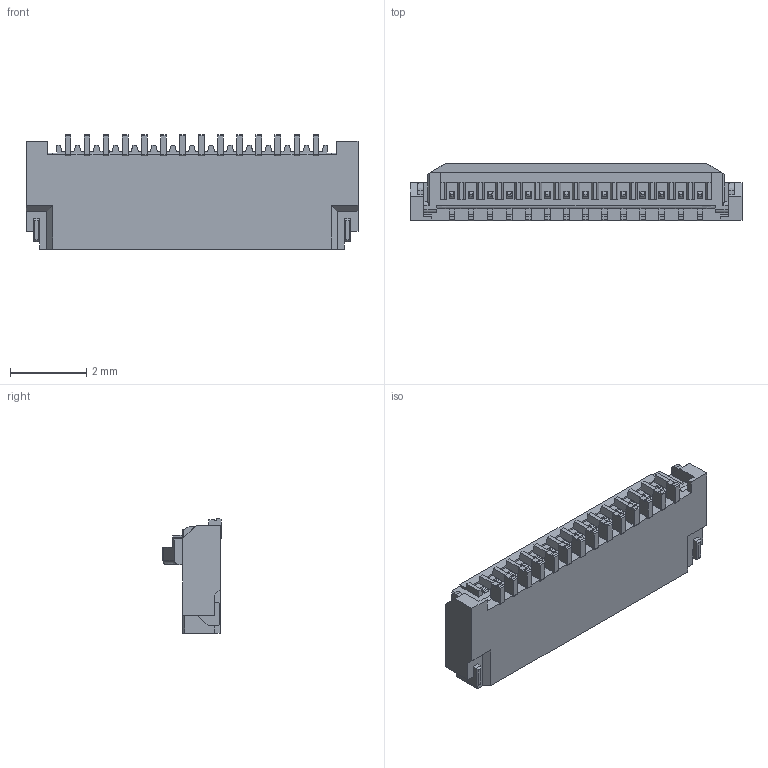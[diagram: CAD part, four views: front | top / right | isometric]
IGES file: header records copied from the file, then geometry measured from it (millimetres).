
Start section: SolidWorks IGES file using analytic representation for surfaces
Bounding box: 8.7 x 1.52 x 3 mm (x, y, z)
Surface area: 86.1 mm2 (no closed solid volume)
Topology: 0 solids, 0 shells, 519 faces, 3426 edges, 3424 vertices
Faces by surface type: bspline 393, revolution 126
